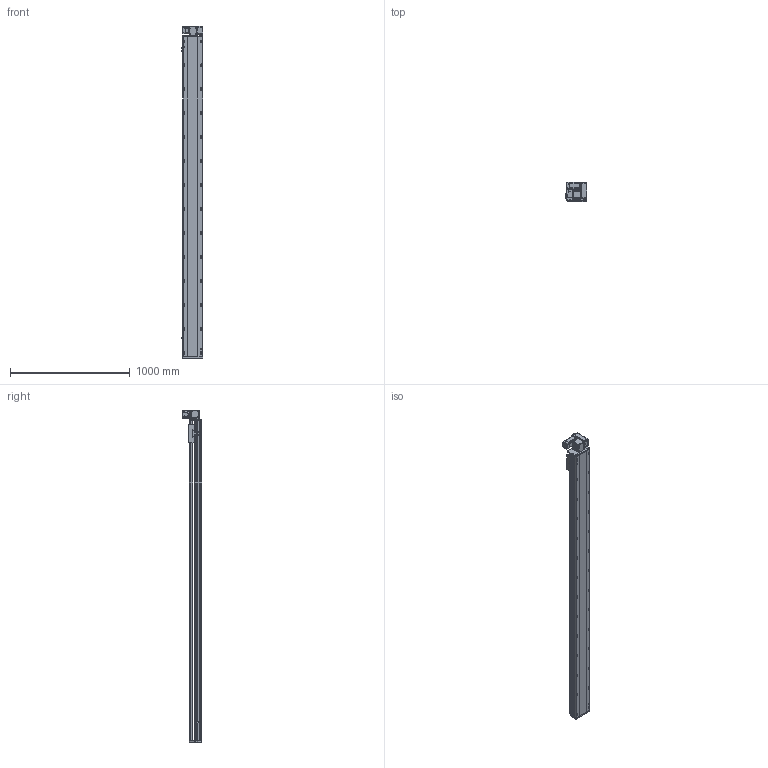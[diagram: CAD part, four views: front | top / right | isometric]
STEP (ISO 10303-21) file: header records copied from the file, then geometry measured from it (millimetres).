
FILE_DESCRIPTION (( 'STEP AP214' ), '1' );
FILE_NAME ('RTB17S-XX-2400-RW-M40-C4.STEP', '2025-12-11T09:12:31', ( '' ), ( '' ), 'SwSTEP 2.0', 'SolidWorks 2018', '' );
FILE_SCHEMA (( 'AUTOMOTIVE_DESIGN' ));
Length unit declared in the file: millimetre
Products named in the file (14): RMP17S-L-014-T20--々湍釱^RTB17S-RW-々湍釱蚾饜-400W_RTB17S-XX-XX-RW-M40-C4; RTB17S-L-007奻裔^RTB17S-XX-XX-RW-M40-C4; RTH13-BL-012覜茼え俋离^RTB17S-XX-XX-RW-M40-C4; RTB14-L-005P--轴承塑胶压盖^RTB17S-RW-皮带座装配-400W_RTB17S-XX-XX-RW-M40-C4; RTB17S-L-001耜醱啣^RTB17S-XX-XX-RW-M40-C4; RTB14-L-017P^RTB17S-RW-々湍釱蚾饜-400W_RTB17S-XX-XX-RW-M40-C4; RTB17S-XX-2400-RW-M40-C4; OMRON EE-SX672 传感器^RTB17S-XX-XX-RW-M40-C4; 400W侜督萇儂^RTB17S-XX-XX-RW-M40-C4; RTB14-L-008-M20--萇儂啣^RTB17S-RW-々湍釱蚾饜-400W_RTB17S-XX-XX-RW-M40-C4; RTB17S-L-004佪裝蹟譫蟀諉釱^RTB17S-XX-XX-RW-M40-C4; RTB17S-RW-々湍釱蚾饜-400W^RTB17S-XX-XX-RW-M40-C4; RTB17-R-011菁釱^RTB17S-XX-XX-RW-M40-C4; RTB14-L-018P^RTB17S-RW-々湍釱蚾饜-400W_RTB17S-XX-XX-RW-M40-C4
Assembly tree (16 placements, depth 3):
  RTB17S-XX-2400-RW-M40-C4
    RTB17-R-011菁釱^RTB17S-XX-XX-RW-M40-C4
    RTB17S-L-007奻裔^RTB17S-XX-XX-RW-M40-C4
    OMRON EE-SX672 传感器^RTB17S-XX-XX-RW-M40-C4  x3
    RTB17S-L-001耜醱啣^RTB17S-XX-XX-RW-M40-C4
    400W侜督萇儂^RTB17S-XX-XX-RW-M40-C4
    RTB17S-L-004佪裝蹟譫蟀諉釱^RTB17S-XX-XX-RW-M40-C4
    RTH13-BL-012覜茼え俋离^RTB17S-XX-XX-RW-M40-C4
    RTB17S-RW-々湍釱蚾饜-400W^RTB17S-XX-XX-RW-M40-C4
      RMP17S-L-014-T20--々湍釱^RTB17S-RW-々湍釱蚾饜-400W_RTB17S-XX-XX-RW-M40-C4
      RTB14-L-005P--轴承塑胶压盖^RTB17S-RW-皮带座装配-400W_RTB17S-XX-XX-RW-M40-C4
      RTB14-L-008-M20--萇儂啣^RTB17S-RW-々湍釱蚾饜-400W_RTB17S-XX-XX-RW-M40-C4
      RTB14-L-017P^RTB17S-RW-々湍釱蚾饜-400W_RTB17S-XX-XX-RW-M40-C4  x2
      RTB14-L-018P^RTB17S-RW-々湍釱蚾饜-400W_RTB17S-XX-XX-RW-M40-C4
Bounding box: 183.5 x 160.5 x 2772.5 mm (x, y, z)
Volume: 23793853.5 mm3; surface area: 2742173.5 mm2
Topology: 15 solids, 15 shells, 2317 faces, 6465 edges, 4221 vertices
Faces by surface type: plane 1082, cylinder 787, bspline 301, cone 139, torus 8
Entity records: 68009 total; most frequent: CARTESIAN_POINT 19270, ORIENTED_EDGE 9774, DIRECTION 9026, EDGE_CURVE 4887, VERTEX_POINT 3209, AXIS2_PLACEMENT_3D 3139, VECTOR 2748, LINE 2748
